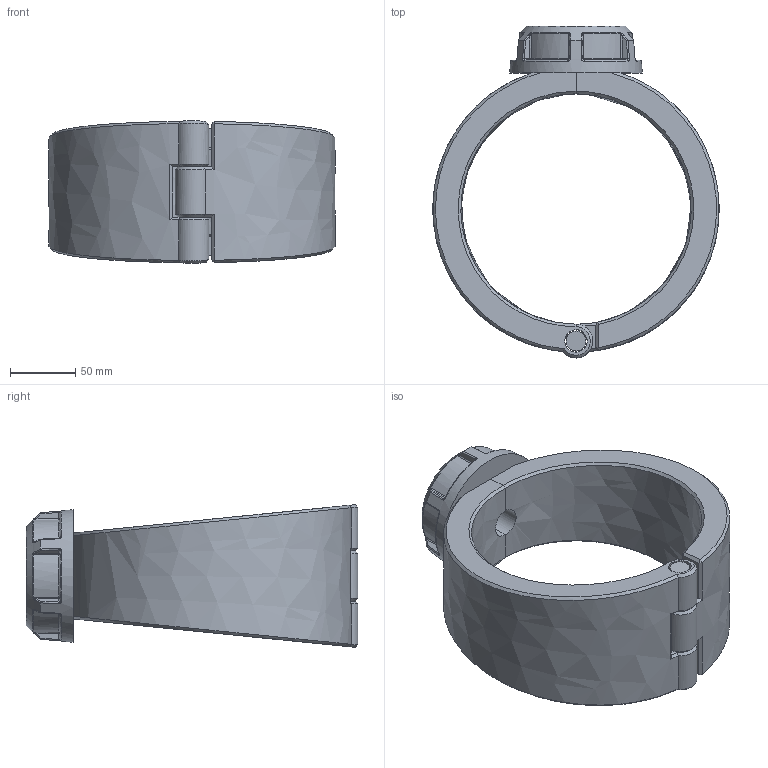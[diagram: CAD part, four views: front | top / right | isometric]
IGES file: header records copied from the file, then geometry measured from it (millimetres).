
Global section: file name: 163000177015; native system: Autodesk Inventor 2019; preprocessor: unknown; author: comp2; date: 20220203.115215; units: millimetre
Bounding box: 220 x 255 x 109.6 mm (x, y, z)
Volume: 1311267.3 mm3; surface area: 179156.2 mm2
Topology: 4 solids, 4 shells, 203 faces, 486 edges, 293 vertices
Faces by surface type: bspline 203
